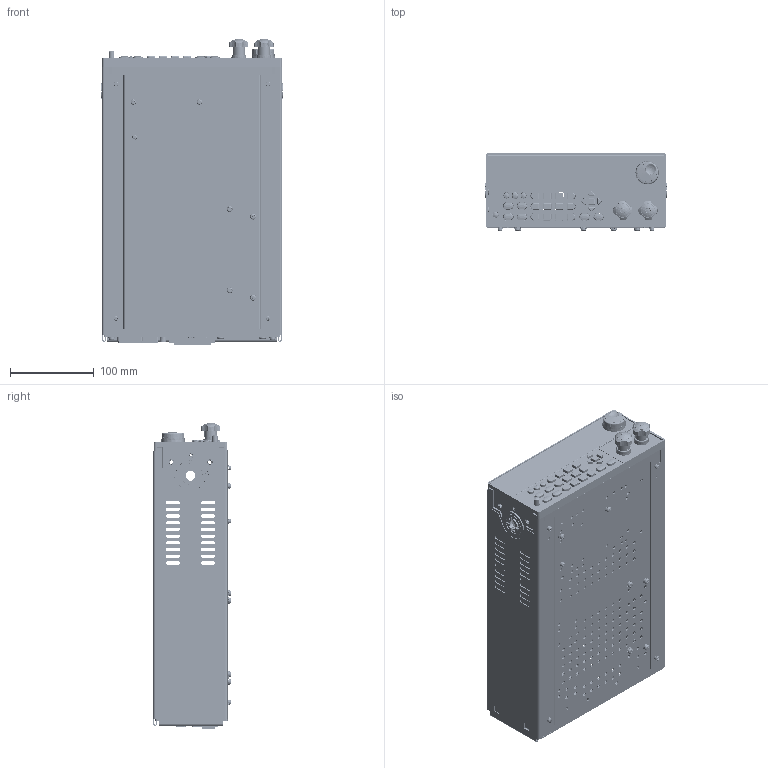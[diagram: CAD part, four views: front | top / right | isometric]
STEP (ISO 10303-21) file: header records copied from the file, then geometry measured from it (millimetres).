
FILE_DESCRIPTION((''),'2;1');
FILE_NAME('2380-2U','2022-11-30T13:59:03',('u607888'),(''),'CREO PARAMETRIC BY PTC INC, 2019080','CREO PARAMETRIC BY PTC INC, 2019080','');
FILE_SCHEMA(('CONFIG_CONTROL_DESIGN','SHAPE_APPEARANCE_LAYERS_GROUPS'));
Products named in the file (1): 2380-2U
Bounding box: 217.17 x 92.9 x 365.92 mm (x, y, z)
Surface area: 630284.6 mm2 (no closed solid volume)
Topology: 0 solids, 237 shells, 2757 faces, 11543 edges, 8919 vertices
Faces by surface type: plane 1205, cylinder 885, cone 359, torus 152, bspline 111, sphere 45
Entity records: 170191 total; most frequent: CARTESIAN_POINT 39237, DIRECTION 18676, ORIENTED_EDGE 16911, PRESENTATION_STYLE_ASSIGNMENT 11960, STYLED_ITEM 11778, CURVE_STYLE 11541, EDGE_CURVE 11541, VERTEX_POINT 8919
